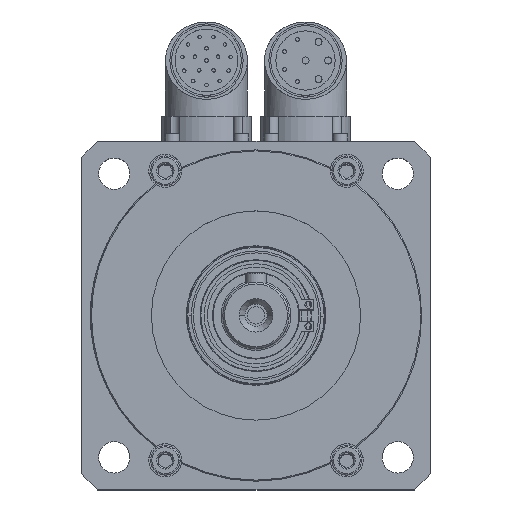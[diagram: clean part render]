
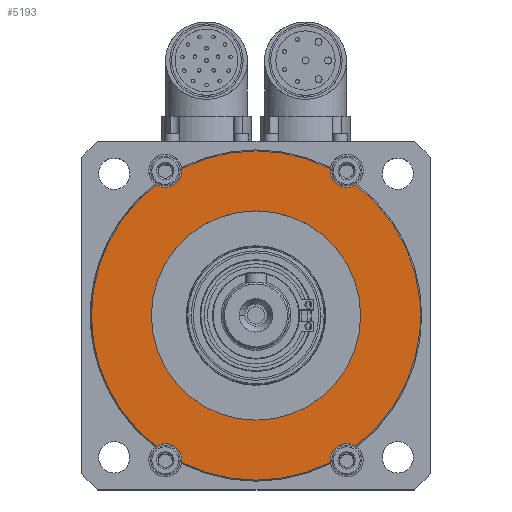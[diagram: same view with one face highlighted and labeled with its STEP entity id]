
A CAD part, top view. The second image highlights one B-rep face of the part: STEP entity #5193.
In plain terms, the highlighted planar face has unit normal (0, 0, 1).
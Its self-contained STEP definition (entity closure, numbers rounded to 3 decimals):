
#565 = CARTESIAN_POINT ( 'NONE',  ( 26., 41.5, 20. ) ) ;
#572 = DIRECTION ( 'NONE',  ( 0., 0., 1. ) ) ;
#573 = DIRECTION ( 'NONE',  ( 1., 0., 0. ) ) ;
#579 = CARTESIAN_POINT ( 'NONE',  ( 26., -41.5, 20. ) ) ;
#584 = DIRECTION ( 'NONE',  ( 0., 0., 1. ) ) ;
#585 = DIRECTION ( 'NONE',  ( 1., 0., 0. ) ) ;
#590 = CARTESIAN_POINT ( 'NONE',  ( 0., 0., 20. ) ) ;
#591 = DIRECTION ( 'NONE',  ( 0., 0., 1. ) ) ;
#592 = DIRECTION ( 'NONE',  ( 1., 0., 0. ) ) ;
#1040 = AXIS2_PLACEMENT_3D ( 'NONE', #590, #591, #592 ) ;
#1051 = AXIS2_PLACEMENT_3D ( 'NONE', #565, #572, #573 ) ;
#1058 = AXIS2_PLACEMENT_3D ( 'NONE', #579, #584, #585 ) ;
#1325 = CIRCLE ( 'NONE', #1051, 4.75 ) ;
#1333 = CIRCLE ( 'NONE', #1058, 4.75 ) ;
#1338 = CIRCLE ( 'NONE', #1040, 47.2 ) ;
#1838 = AXIS2_PLACEMENT_3D ( 'NONE', #8596, #8609, #8610 ) ;
#1890 = AXIS2_PLACEMENT_3D ( 'NONE', #6302, #6308, #6309 ) ;
#1984 = AXIS2_PLACEMENT_3D ( 'NONE', #14176, #14183, #14184 ) ;
#1997 = AXIS2_PLACEMENT_3D ( 'NONE', #14228, #14235, #14236 ) ;
#2000 = AXIS2_PLACEMENT_3D ( 'NONE', #14214, #14220, #14221 ) ;
#2001 = AXIS2_PLACEMENT_3D ( 'NONE', #14230, #14232, #14233 ) ;
#2005 = AXIS2_PLACEMENT_3D ( 'NONE', #14249, #14251, #14252 ) ;
#2172 = DIRECTION ( 'NONE',  ( 1., 0., 0. ) ) ;
#2173 = DIRECTION ( 'NONE',  ( 0., 0., 1. ) ) ;
#2238 = PLANE ( 'NONE',  #10988 ) ;
#2239 = CARTESIAN_POINT ( 'NONE',  ( -50., 50., 20. ) ) ;
#2980 = ORIENTED_EDGE ( 'NONE', *, *, #10232, .F. ) ;
#2981 = ORIENTED_EDGE ( 'NONE', *, *, #10228, .T. ) ;
#2982 = ORIENTED_EDGE ( 'NONE', *, *, #10240, .T. ) ;
#2983 = ORIENTED_EDGE ( 'NONE', *, *, #7637, .F. ) ;
#2984 = ORIENTED_EDGE ( 'NONE', *, *, #10233, .F. ) ;
#2985 = ORIENTED_EDGE ( 'NONE', *, *, #5570, .T. ) ;
#2986 = ORIENTED_EDGE ( 'NONE', *, *, #7249, .F. ) ;
#2987 = ORIENTED_EDGE ( 'NONE', *, *, #15547, .F. ) ;
#2988 = ORIENTED_EDGE ( 'NONE', *, *, #15550, .T. ) ;
#2989 = ORIENTED_EDGE ( 'NONE', *, *, #15542, .F. ) ;
#2990 = ORIENTED_EDGE ( 'NONE', *, *, #7243, .F. ) ;
#2997 = ORIENTED_EDGE ( 'NONE', *, *, #10215, .F. ) ;
#2998 = ORIENTED_EDGE ( 'NONE', *, *, #5572, .F. ) ;
#2999 = ORIENTED_EDGE ( 'NONE', *, *, #5571, .F. ) ;
#3000 = ORIENTED_EDGE ( 'NONE', *, *, #7720, .T. ) ;
#3710 = CIRCLE ( 'NONE', #11077, 47.2 ) ;
#3711 = CIRCLE ( 'NONE', #11085, 30. ) ;
#3714 = CIRCLE ( 'NONE', #11084, 30. ) ;
#3715 = CARTESIAN_POINT ( 'NONE',  ( 21.25, 41.5, 20. ) ) ;
#3770 = CARTESIAN_POINT ( 'NONE',  ( 30., 0., 20. ) ) ;
#3883 = CARTESIAN_POINT ( 'NONE',  ( -28.617, -37.536, 20. ) ) ;
#3916 = CARTESIAN_POINT ( 'NONE',  ( -21.25, -41.5, 20. ) ) ;
#3941 = CARTESIAN_POINT ( 'NONE',  ( 21.25, -41.5, 20. ) ) ;
#4027 = CARTESIAN_POINT ( 'NONE',  ( -47.2, 0., 20. ) ) ;
#4047 = CIRCLE ( 'NONE', #11167, 4.75 ) ;
#4067 = CIRCLE ( 'NONE', #11171, 4.75 ) ;
#4075 = CARTESIAN_POINT ( 'NONE',  ( -30., 0., 20. ) ) ;
#4388 = CARTESIAN_POINT ( 'NONE',  ( 26., 41.5, 20. ) ) ;
#4389 = DIRECTION ( 'NONE',  ( 0., 0., 1. ) ) ;
#4390 = DIRECTION ( 'NONE',  ( 1., 0., 0. ) ) ;
#4401 = CARTESIAN_POINT ( 'NONE',  ( 26., -41.5, 20. ) ) ;
#4407 = DIRECTION ( 'NONE',  ( 0., 0., 1. ) ) ;
#4408 = DIRECTION ( 'NONE',  ( 1., 0., 0. ) ) ;
#5193 = ADVANCED_FACE ( 'NONE', ( #10779, #10785 ), #2238, .T. ) ;
#5570 = EDGE_CURVE ( 'NONE', #6722, #6826, #3710, .T. ) ;
#5571 = EDGE_CURVE ( 'NONE', #7057, #6870, #3711, .T. ) ;
#5572 = EDGE_CURVE ( 'NONE', #6870, #7057, #3714, .T. ) ;
#5793 = CARTESIAN_POINT ( 'NONE',  ( 21.291, -42.125, 20. ) ) ;
#6302 = CARTESIAN_POINT ( 'NONE',  ( 0., 0., 20. ) ) ;
#6308 = DIRECTION ( 'NONE',  ( 0., 0., 1. ) ) ;
#6309 = DIRECTION ( 'NONE',  ( 1., 0., 0. ) ) ;
#6628 = VERTEX_POINT ( 'NONE', #12458 ) ;
#6647 = VERTEX_POINT ( 'NONE', #12503 ) ;
#6684 = VERTEX_POINT ( 'NONE', #12362 ) ;
#6722 = VERTEX_POINT ( 'NONE', #12323 ) ;
#6768 = VERTEX_POINT ( 'NONE', #7989 ) ;
#6802 = VERTEX_POINT ( 'NONE', #15058 ) ;
#6804 = VERTEX_POINT ( 'NONE', #15076 ) ;
#6826 = VERTEX_POINT ( 'NONE', #5793 ) ;
#6836 = VERTEX_POINT ( 'NONE', #3715 ) ;
#6870 = VERTEX_POINT ( 'NONE', #3770 ) ;
#6940 = VERTEX_POINT ( 'NONE', #3883 ) ;
#6959 = VERTEX_POINT ( 'NONE', #3916 ) ;
#6975 = VERTEX_POINT ( 'NONE', #3941 ) ;
#7026 = VERTEX_POINT ( 'NONE', #4027 ) ;
#7057 = VERTEX_POINT ( 'NONE', #4075 ) ;
#7243 = EDGE_CURVE ( 'NONE', #6836, #6684, #4047, .T. ) ;
#7249 = EDGE_CURVE ( 'NONE', #6975, #6826, #4067, .T. ) ;
#7637 = EDGE_CURVE ( 'NONE', #6959, #6940, #16266, .T. ) ;
#7720 = EDGE_CURVE ( 'NONE', #6802, #6647, #16469, .T. ) ;
#7989 = CARTESIAN_POINT ( 'NONE',  ( -28.617, 37.536, 20. ) ) ;
#8596 = CARTESIAN_POINT ( 'NONE',  ( -26., -41.5, 20. ) ) ;
#8609 = DIRECTION ( 'NONE',  ( 0., 0., 1. ) ) ;
#8610 = DIRECTION ( 'NONE',  ( 1., 0., 0. ) ) ;
#10215 = EDGE_CURVE ( 'NONE', #6628, #6647, #12846, .T. ) ;
#10228 = EDGE_CURVE ( 'NONE', #6768, #7026, #12862, .T. ) ;
#10232 = EDGE_CURVE ( 'NONE', #6768, #6628, #12866, .T. ) ;
#10233 = EDGE_CURVE ( 'NONE', #6722, #6959, #12868, .T. ) ;
#10240 = EDGE_CURVE ( 'NONE', #7026, #6940, #12877, .T. ) ;
#10779 = FACE_OUTER_BOUND ( 'NONE', #11557, .T. ) ;
#10785 = FACE_BOUND ( 'NONE', #11398, .T. ) ;
#10988 = AXIS2_PLACEMENT_3D ( 'NONE', #2239, #2173, #2172 ) ;
#11077 = AXIS2_PLACEMENT_3D ( 'NONE', #12450, #12319, #12311 ) ;
#11084 = AXIS2_PLACEMENT_3D ( 'NONE', #12347, #12364, #12345 ) ;
#11085 = AXIS2_PLACEMENT_3D ( 'NONE', #12351, #12289, #12334 ) ;
#11167 = AXIS2_PLACEMENT_3D ( 'NONE', #4388, #4389, #4390 ) ;
#11171 = AXIS2_PLACEMENT_3D ( 'NONE', #4401, #4407, #4408 ) ;
#11398 = EDGE_LOOP ( 'NONE', ( #2998, #2999 ) ) ;
#11557 = EDGE_LOOP ( 'NONE', ( #2980, #2981, #2982, #2983, #2984, #2985, #2986, #2987, #2988, #2990, #2989, #3000, #2997 ) ) ;
#12289 = DIRECTION ( 'NONE',  ( 0., 0., 1. ) ) ;
#12311 = DIRECTION ( 'NONE',  ( 1., 0., 0. ) ) ;
#12319 = DIRECTION ( 'NONE',  ( 0., 0., 1. ) ) ;
#12323 = CARTESIAN_POINT ( 'NONE',  ( -21.291, -42.125, 20. ) ) ;
#12334 = DIRECTION ( 'NONE',  ( 1., 0., 0. ) ) ;
#12345 = DIRECTION ( 'NONE',  ( 1., 0., 0. ) ) ;
#12347 = CARTESIAN_POINT ( 'NONE',  ( 0., 0., 20. ) ) ;
#12351 = CARTESIAN_POINT ( 'NONE',  ( 0., 0., 20. ) ) ;
#12362 = CARTESIAN_POINT ( 'NONE',  ( 28.617, 37.536, 20. ) ) ;
#12364 = DIRECTION ( 'NONE',  ( 0., 0., 1. ) ) ;
#12450 = CARTESIAN_POINT ( 'NONE',  ( 0., 0., 20. ) ) ;
#12458 = CARTESIAN_POINT ( 'NONE',  ( -21.25, 41.5, 20. ) ) ;
#12503 = CARTESIAN_POINT ( 'NONE',  ( -21.291, 42.125, 20. ) ) ;
#12846 = CIRCLE ( 'NONE', #1984, 4.75 ) ;
#12862 = CIRCLE ( 'NONE', #2000, 47.2 ) ;
#12866 = CIRCLE ( 'NONE', #2001, 4.75 ) ;
#12868 = CIRCLE ( 'NONE', #1997, 4.75 ) ;
#12877 = CIRCLE ( 'NONE', #2005, 47.2 ) ;
#14176 = CARTESIAN_POINT ( 'NONE',  ( -26., 41.5, 20. ) ) ;
#14183 = DIRECTION ( 'NONE',  ( 0., 0., 1. ) ) ;
#14184 = DIRECTION ( 'NONE',  ( 1., 0., 0. ) ) ;
#14214 = CARTESIAN_POINT ( 'NONE',  ( 0., 0., 20. ) ) ;
#14220 = DIRECTION ( 'NONE',  ( 0., 0., 1. ) ) ;
#14221 = DIRECTION ( 'NONE',  ( 1., 0., 0. ) ) ;
#14228 = CARTESIAN_POINT ( 'NONE',  ( -26., -41.5, 20. ) ) ;
#14230 = CARTESIAN_POINT ( 'NONE',  ( -26., 41.5, 20. ) ) ;
#14232 = DIRECTION ( 'NONE',  ( 0., 0., 1. ) ) ;
#14233 = DIRECTION ( 'NONE',  ( 1., 0., 0. ) ) ;
#14235 = DIRECTION ( 'NONE',  ( 0., 0., 1. ) ) ;
#14236 = DIRECTION ( 'NONE',  ( 1., 0., 0. ) ) ;
#14249 = CARTESIAN_POINT ( 'NONE',  ( 0., 0., 20. ) ) ;
#14251 = DIRECTION ( 'NONE',  ( 0., 0., 1. ) ) ;
#14252 = DIRECTION ( 'NONE',  ( 1., 0., 0. ) ) ;
#15058 = CARTESIAN_POINT ( 'NONE',  ( 21.291, 42.125, 20. ) ) ;
#15076 = CARTESIAN_POINT ( 'NONE',  ( 28.617, -37.536, 20. ) ) ;
#15542 = EDGE_CURVE ( 'NONE', #6802, #6836, #1325, .T. ) ;
#15547 = EDGE_CURVE ( 'NONE', #6804, #6975, #1333, .T. ) ;
#15550 = EDGE_CURVE ( 'NONE', #6804, #6684, #1338, .T. ) ;
#16266 = CIRCLE ( 'NONE', #1838, 4.75 ) ;
#16469 = CIRCLE ( 'NONE', #1890, 47.2 ) ;
